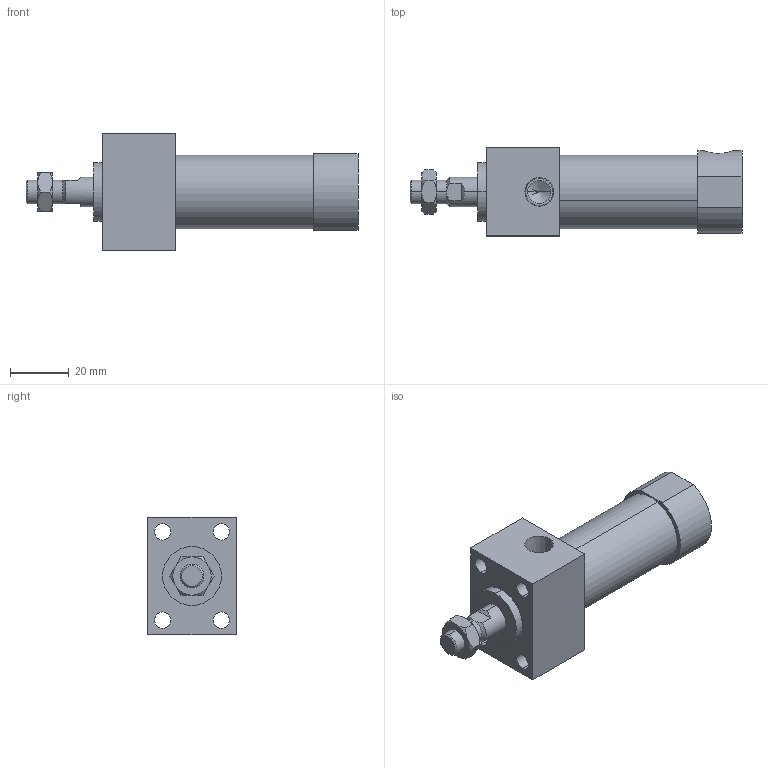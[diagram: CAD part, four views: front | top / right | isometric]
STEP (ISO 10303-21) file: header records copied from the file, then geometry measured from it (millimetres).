
FILE_DESCRIPTION (( 'STEP AP203' ), '1' );
FILE_NAME ('JGEF2-20-15.STEP', '2016-04-20T07:04:53', ( '' ), ( '' ), 'SwSTEP 2.0', 'SolidWorks 2014', '' );
FILE_SCHEMA (( 'CONFIG_CONTROL_DESIGN' ));
Length unit declared in the file: millimetre
Products named in the file (5): M8x1.25-5mm; 20-15; JGES2-20A; JGEF2-20-15; JGEF2-20B
Assembly tree (4 placements, depth 2):
  JGEF2-20-15
    JGEF2-20B
    20-15
    JGES2-20A
    M8x1.25-5mm
Bounding box: 113 x 30 x 40 mm (x, y, z)
Volume: 60259.9 mm3; surface area: 16953.2 mm2
Topology: 4 solids, 4 shells, 83 faces, 186 edges, 113 vertices
Faces by surface type: plane 29, cylinder 26, cone 16, torus 12
Entity records: 3032 total; most frequent: CARTESIAN_POINT 674, DIRECTION 406, ORIENTED_EDGE 360, EDGE_CURVE 180, AXIS2_PLACEMENT_3D 168, VERTEX_POINT 113, EDGE_LOOP 101, FACE_OUTER_BOUND 83
